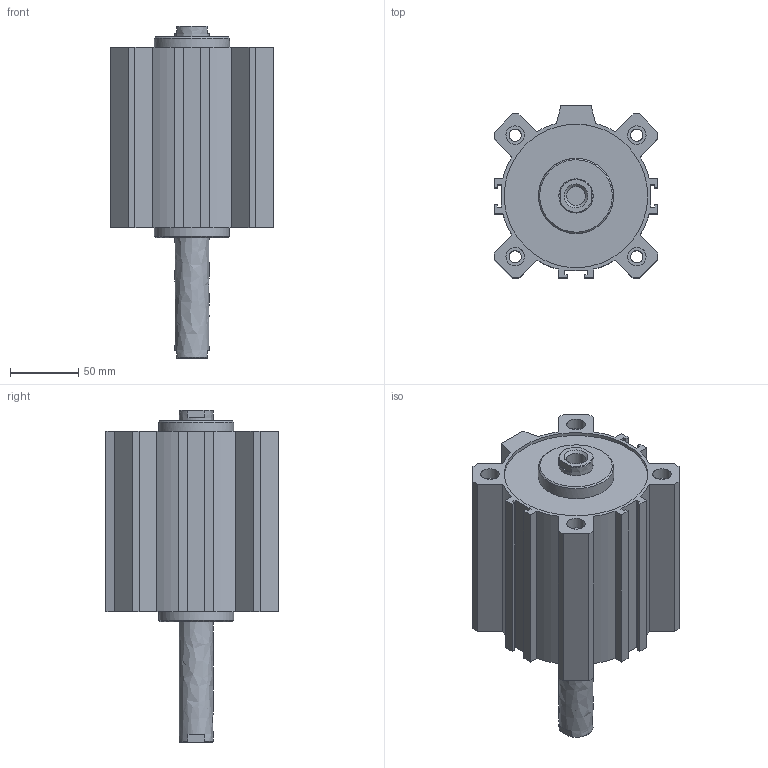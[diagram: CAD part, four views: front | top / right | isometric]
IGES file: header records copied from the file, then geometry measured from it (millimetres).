
Global section: file name: 1514_100_0080; native system: Autodesk Inventor 2014; preprocessor: unknown; author: A. Manieri; date: 20160824.163318; units: millimetre
Bounding box: 120 x 126 x 243 mm (x, y, z)
Volume: 1010529.8 mm3; surface area: 215894.8 mm2
Topology: 2 solids, 2 shells, 132 faces, 346 edges, 238 vertices
Faces by surface type: bspline 132
